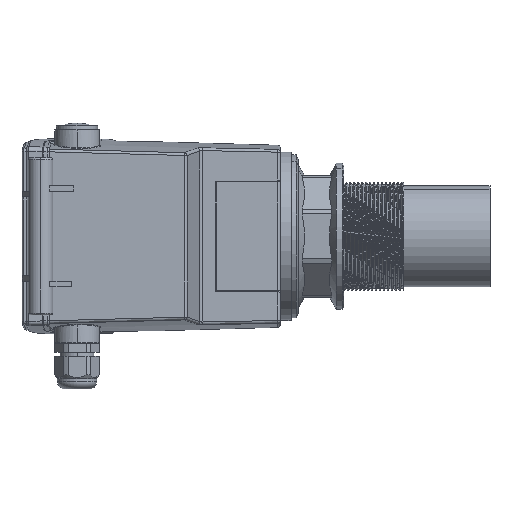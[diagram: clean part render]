
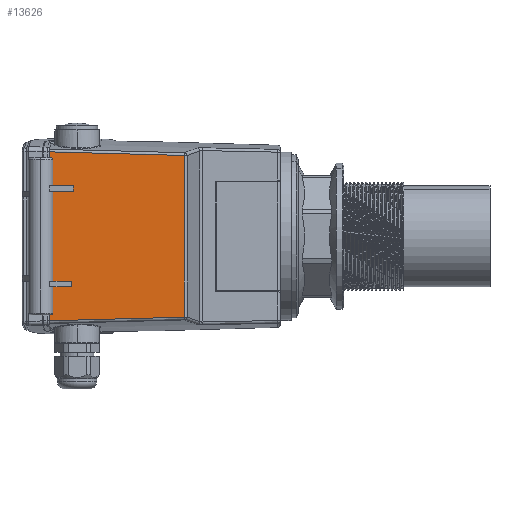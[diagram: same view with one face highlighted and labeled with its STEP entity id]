
A CAD part, left-side view. The second image highlights one B-rep face of the part: STEP entity #13626.
In plain terms, the highlighted planar face has unit normal (-1, 0, 0).
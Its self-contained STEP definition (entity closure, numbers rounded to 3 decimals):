
#3 = LINE ( 'NONE', #7230, #12271 ) ;
#32 = LINE ( 'NONE', #18188, #13375 ) ;
#103 = CARTESIAN_POINT ( 'NONE',  ( -69.25, 57.146, 43.17 ) ) ;
#128 = B_SPLINE_CURVE_WITH_KNOTS ( 'NONE', 3,
 ( #6850, #14085, #21325, #5071, #12311, #19557, #3299 ),
 .UNSPECIFIED., .F., .F.,
 ( 4, 3, 4 ),
 ( 0., 0.036, 0.072 ),
 .UNSPECIFIED. ) ;
#617 = CARTESIAN_POINT ( 'NONE',  ( -69.25, 129.428, -54.779 ) ) ;
#1915 = CARTESIAN_POINT ( 'NONE',  ( -69.25, 105.156, 44.445 ) ) ;
#1930 = DIRECTION ( 'NONE',  ( 0., 0., 1. ) ) ;
#2774 = DIRECTION ( 'NONE',  ( 0., -1., 0. ) ) ;
#2905 = DIRECTION ( 'NONE',  ( 0., 0., 1. ) ) ;
#3299 = CARTESIAN_POINT ( 'NONE',  ( -69.25, 57.146, -43.17 ) ) ;
#3690 = CARTESIAN_POINT ( 'NONE',  ( -69.25, 69.103, 43.487 ) ) ;
#4109 = ORIENTED_EDGE ( 'NONE', *, *, #16295, .F. ) ;
#4432 = VERTEX_POINT ( 'NONE', #9372 ) ;
#4603 = EDGE_LOOP ( 'NONE', ( #8792, #11782, #23338, #18682, #4109, #14362, #5540, #10578 ) ) ;
#4639 = VECTOR ( 'NONE', #2774, 1000. ) ;
#4673 = PLANE ( 'NONE',  #8079 ) ;
#4795 = EDGE_CURVE ( 'NONE', #22481, #6312, #128, .T. ) ;
#4965 = CARTESIAN_POINT ( 'NONE',  ( -69.25, 129.428, 27. ) ) ;
#5022 = LINE ( 'NONE', #12264, #8397 ) ;
#5071 = CARTESIAN_POINT ( 'NONE',  ( -69.25, 93.019, -44.123 ) ) ;
#5540 = ORIENTED_EDGE ( 'NONE', *, *, #13863, .F. ) ;
#5557 = CARTESIAN_POINT ( 'NONE',  ( -69.25, 57.146, -43.17 ) ) ;
#5637 = EDGE_CURVE ( 'NONE', #6312, #16158, #21966, .T. ) ;
#5715 = CARTESIAN_POINT ( 'NONE',  ( -69.25, 57.146, 55. ) ) ;
#6312 = VERTEX_POINT ( 'NONE', #5557 ) ;
#6850 = CARTESIAN_POINT ( 'NONE',  ( -69.25, 129.428, -45.09 ) ) ;
#7041 = EDGE_CURVE ( 'NONE', #16158, #21973, #17841, .T. ) ;
#7230 = CARTESIAN_POINT ( 'NONE',  ( -69.25, 0., 27. ) ) ;
#7698 = VERTEX_POINT ( 'NONE', #8898 ) ;
#7844 = DIRECTION ( 'NONE',  ( 0., 0., 1. ) ) ;
#8079 = AXIS2_PLACEMENT_3D ( 'NONE', #11913, #19156, #2905 ) ;
#8397 = VECTOR ( 'NONE', #19505, 1000. ) ;
#8792 = ORIENTED_EDGE ( 'NONE', *, *, #16556, .F. ) ;
#8898 = CARTESIAN_POINT ( 'NONE',  ( -69.25, 116.649, 24. ) ) ;
#9139 = CARTESIAN_POINT ( 'NONE',  ( -69.25, 117.292, 44.768 ) ) ;
#9372 = CARTESIAN_POINT ( 'NONE',  ( -69.25, 116.649, 27. ) ) ;
#10578 = ORIENTED_EDGE ( 'NONE', *, *, #18346, .F. ) ;
#10924 = CARTESIAN_POINT ( 'NONE',  ( -69.25, 81.061, 43.805 ) ) ;
#11057 = VECTOR ( 'NONE', #12955, 1000. ) ;
#11782 = ORIENTED_EDGE ( 'NONE', *, *, #4795, .T. ) ;
#11787 = LINE ( 'NONE', #19030, #4639 ) ;
#11913 = CARTESIAN_POINT ( 'NONE',  ( -69.25, 0., 55. ) ) ;
#12120 = CARTESIAN_POINT ( 'NONE',  ( -69.25, 129.428, -45.09 ) ) ;
#12264 = CARTESIAN_POINT ( 'NONE',  ( -69.25, 129.428, -54.779 ) ) ;
#12271 = VECTOR ( 'NONE', #14464, 1000. ) ;
#12311 = CARTESIAN_POINT ( 'NONE',  ( -69.25, 81.061, -43.805 ) ) ;
#12955 = DIRECTION ( 'NONE',  ( 0., 0., 1. ) ) ;
#13375 = VECTOR ( 'NONE', #1930, 1000. ) ;
#13626 = ADVANCED_FACE ( 'NONE', ( #20925 ), #4673, .T. ) ;
#13863 = EDGE_CURVE ( 'NONE', #7698, #4432, #32, .T. ) ;
#14085 = CARTESIAN_POINT ( 'NONE',  ( -69.25, 117.292, -44.768 ) ) ;
#14362 = ORIENTED_EDGE ( 'NONE', *, *, #21675, .F. ) ;
#14464 = DIRECTION ( 'NONE',  ( 0., 1., 0. ) ) ;
#15544 = VERTEX_POINT ( 'NONE', #19346 ) ;
#16158 = VERTEX_POINT ( 'NONE', #103 ) ;
#16295 = EDGE_CURVE ( 'NONE', #16783, #21973, #5022, .T. ) ;
#16381 = CARTESIAN_POINT ( 'NONE',  ( -69.25, 129.428, 45.09 ) ) ;
#16556 = EDGE_CURVE ( 'NONE', #22481, #15544, #16859, .T. ) ;
#16783 = VERTEX_POINT ( 'NONE', #4965 ) ;
#16859 = LINE ( 'NONE', #617, #22411 ) ;
#17841 = B_SPLINE_CURVE_WITH_KNOTS ( 'NONE', 3,
 ( #19944, #3690, #10924, #18175, #1915, #9139, #16381 ),
 .UNSPECIFIED., .F., .F.,
 ( 4, 3, 4 ),
 ( 0., 0.036, 0.072 ),
 .UNSPECIFIED. ) ;
#18175 = CARTESIAN_POINT ( 'NONE',  ( -69.25, 93.019, 44.123 ) ) ;
#18188 = CARTESIAN_POINT ( 'NONE',  ( -69.25, 116.649, 55. ) ) ;
#18346 = EDGE_CURVE ( 'NONE', #15544, #7698, #11787, .T. ) ;
#18682 = ORIENTED_EDGE ( 'NONE', *, *, #7041, .T. ) ;
#19030 = CARTESIAN_POINT ( 'NONE',  ( -69.25, 0., 24. ) ) ;
#19156 = DIRECTION ( 'NONE',  ( -1., 0., 0. ) ) ;
#19346 = CARTESIAN_POINT ( 'NONE',  ( -69.25, 129.428, 24. ) ) ;
#19434 = CARTESIAN_POINT ( 'NONE',  ( -69.25, 129.428, 45.09 ) ) ;
#19505 = DIRECTION ( 'NONE',  ( 0., 0., 1. ) ) ;
#19557 = CARTESIAN_POINT ( 'NONE',  ( -69.25, 69.103, -43.487 ) ) ;
#19944 = CARTESIAN_POINT ( 'NONE',  ( -69.25, 57.146, 43.17 ) ) ;
#20925 = FACE_OUTER_BOUND ( 'NONE', #4603, .T. ) ;
#21325 = CARTESIAN_POINT ( 'NONE',  ( -69.25, 105.156, -44.445 ) ) ;
#21675 = EDGE_CURVE ( 'NONE', #4432, #16783, #3, .T. ) ;
#21966 = LINE ( 'NONE', #5715, #11057 ) ;
#21973 = VERTEX_POINT ( 'NONE', #19434 ) ;
#22411 = VECTOR ( 'NONE', #7844, 1000. ) ;
#22481 = VERTEX_POINT ( 'NONE', #12120 ) ;
#23338 = ORIENTED_EDGE ( 'NONE', *, *, #5637, .T. ) ;
